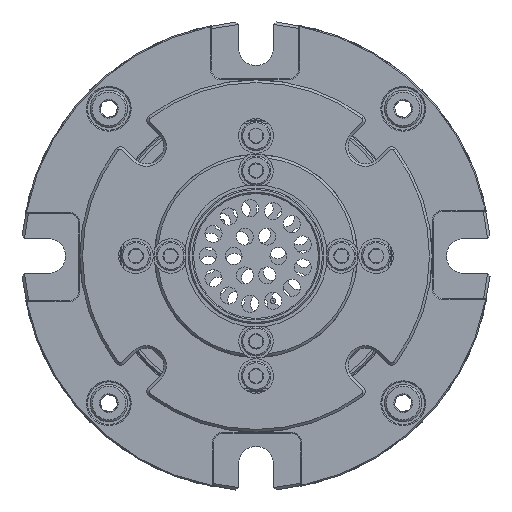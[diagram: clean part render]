
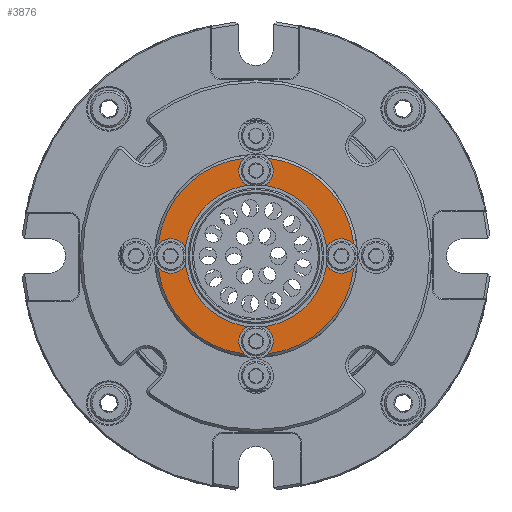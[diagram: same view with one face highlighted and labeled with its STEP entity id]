
A CAD part, left-side view. The second image highlights one B-rep face of the part: STEP entity #3876.
In plain terms, the highlighted planar face has unit normal (-1, 0, 0).
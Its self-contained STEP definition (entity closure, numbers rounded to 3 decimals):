
#51 = AXIS2_PLACEMENT_3D ( 'NONE', #11730, #18459, #3414 ) ;
#566 = VERTEX_POINT ( 'NONE', #10225 ) ;
#799 = DIRECTION ( 'NONE',  ( 0., 0., 1. ) ) ;
#951 = EDGE_CURVE ( 'NONE', #14680, #566, #7232, .T. ) ;
#1256 = CARTESIAN_POINT ( 'NONE',  ( -121.309, -49.282, -65.877 ) ) ;
#1408 = CIRCLE ( 'NONE', #13652, 3.25 ) ;
#1698 = DIRECTION ( 'NONE',  ( 0., 0., 1. ) ) ;
#2169 = VERTEX_POINT ( 'NONE', #18805 ) ;
#2205 = CARTESIAN_POINT ( 'NONE',  ( -121.309, -30.282, -65.877 ) ) ;
#2764 = ORIENTED_EDGE ( 'NONE', *, *, #11901, .T. ) ;
#3399 = CARTESIAN_POINT ( 'NONE',  ( -121.309, -65.282, -65.877 ) ) ;
#3414 = DIRECTION ( 'NONE',  ( 0., 0., -1. ) ) ;
#3456 = CIRCLE ( 'NONE', #18550, 18.5 ) ;
#3876 = ADVANCED_FACE ( 'NONE', ( #7230, #12161 ), #5698, .F. ) ;
#3892 = CIRCLE ( 'NONE', #51, 18.5 ) ;
#3997 = CARTESIAN_POINT ( 'NONE',  ( -121.309, -49.282, -65.877 ) ) ;
#4154 = DIRECTION ( 'NONE',  ( 1., 0., 0. ) ) ;
#4799 = EDGE_CURVE ( 'NONE', #2169, #566, #3892, .T. ) ;
#5163 = CARTESIAN_POINT ( 'NONE',  ( -121.309, -51.511, -84.243 ) ) ;
#5339 = VERTEX_POINT ( 'NONE', #19486 ) ;
#5461 = EDGE_CURVE ( 'NONE', #11824, #5339, #5946, .T. ) ;
#5475 = EDGE_CURVE ( 'NONE', #2169, #5339, #1408, .T. ) ;
#5698 = PLANE ( 'NONE',  #21372 ) ;
#5740 = CARTESIAN_POINT ( 'NONE',  ( -121.309, -47.053, -84.243 ) ) ;
#5935 = CARTESIAN_POINT ( 'NONE',  ( -121.309, -33.282, -65.877 ) ) ;
#5946 = CIRCLE ( 'NONE', #20732, 18.5 ) ;
#6137 = ORIENTED_EDGE ( 'NONE', *, *, #4799, .T. ) ;
#6279 = DIRECTION ( 'NONE',  ( -1., 0., 0. ) ) ;
#7230 = FACE_BOUND ( 'NONE', #15505, .T. ) ;
#7232 = CIRCLE ( 'NONE', #12476, 3.25 ) ;
#7493 = DIRECTION ( 'NONE',  ( 1., 0., 0. ) ) ;
#7938 = DIRECTION ( 'NONE',  ( 0., 0., -1. ) ) ;
#8141 = VERTEX_POINT ( 'NONE', #5163 ) ;
#8154 = CARTESIAN_POINT ( 'NONE',  ( -121.309, -49.282, -65.877 ) ) ;
#9075 = EDGE_CURVE ( 'NONE', #8141, #16306, #19052, .T. ) ;
#9356 = CARTESIAN_POINT ( 'NONE',  ( -121.309, -67.647, -63.648 ) ) ;
#9438 = ORIENTED_EDGE ( 'NONE', *, *, #5475, .F. ) ;
#9654 = DIRECTION ( 'NONE',  ( 0., 0., 1. ) ) ;
#9710 = CARTESIAN_POINT ( 'NONE',  ( -121.309, -49.282, -81.877 ) ) ;
#9798 = CARTESIAN_POINT ( 'NONE',  ( -121.309, -49.282, -78.577 ) ) ;
#9972 = AXIS2_PLACEMENT_3D ( 'NONE', #3399, #10093, #9654 ) ;
#10093 = DIRECTION ( 'NONE',  ( -1., 0., 0. ) ) ;
#10109 = EDGE_CURVE ( 'NONE', #11824, #16306, #13095, .T. ) ;
#10121 = DIRECTION ( 'NONE',  ( 0., 0., -1. ) ) ;
#10225 = CARTESIAN_POINT ( 'NONE',  ( -121.309, -30.917, -63.648 ) ) ;
#10734 = DIRECTION ( 'NONE',  ( 0., 0., -1. ) ) ;
#11200 = AXIS2_PLACEMENT_3D ( 'NONE', #3997, #7493, #19258 ) ;
#11513 = AXIS2_PLACEMENT_3D ( 'NONE', #9710, #14776, #14877 ) ;
#11730 = CARTESIAN_POINT ( 'NONE',  ( -121.309, -49.282, -65.877 ) ) ;
#11824 = VERTEX_POINT ( 'NONE', #9356 ) ;
#11901 = EDGE_CURVE ( 'NONE', #12969, #12969, #16847, .T. ) ;
#12161 = FACE_OUTER_BOUND ( 'NONE', #13989, .T. ) ;
#12476 = AXIS2_PLACEMENT_3D ( 'NONE', #5935, #12611, #799 ) ;
#12562 = ORIENTED_EDGE ( 'NONE', *, *, #5461, .T. ) ;
#12611 = DIRECTION ( 'NONE',  ( -1., 0., 0. ) ) ;
#12707 = AXIS2_PLACEMENT_3D ( 'NONE', #17710, #20996, #14405 ) ;
#12969 = VERTEX_POINT ( 'NONE', #9798 ) ;
#13095 = CIRCLE ( 'NONE', #9972, 3.25 ) ;
#13652 = AXIS2_PLACEMENT_3D ( 'NONE', #19930, #16736, #1698 ) ;
#13989 = EDGE_LOOP ( 'NONE', ( #12562, #9438, #6137, #18998, #19388, #17600, #17318, #21302 ) ) ;
#14405 = DIRECTION ( 'NONE',  ( 0., 0., -1. ) ) ;
#14676 = CIRCLE ( 'NONE', #11513, 3.25 ) ;
#14680 = VERTEX_POINT ( 'NONE', #15470 ) ;
#14776 = DIRECTION ( 'NONE',  ( -1., 0., 0. ) ) ;
#14877 = DIRECTION ( 'NONE',  ( 0., 0., 1. ) ) ;
#15470 = CARTESIAN_POINT ( 'NONE',  ( -121.309, -30.917, -68.106 ) ) ;
#15505 = EDGE_LOOP ( 'NONE', ( #2764 ) ) ;
#16306 = VERTEX_POINT ( 'NONE', #16874 ) ;
#16411 = DIRECTION ( 'NONE',  ( -1., 0., 0. ) ) ;
#16736 = DIRECTION ( 'NONE',  ( -1., 0., 0. ) ) ;
#16847 = CIRCLE ( 'NONE', #11200, 12.7 ) ;
#16874 = CARTESIAN_POINT ( 'NONE',  ( -121.309, -67.647, -68.106 ) ) ;
#17318 = ORIENTED_EDGE ( 'NONE', *, *, #9075, .T. ) ;
#17600 = ORIENTED_EDGE ( 'NONE', *, *, #19232, .F. ) ;
#17710 = CARTESIAN_POINT ( 'NONE',  ( -121.309, -49.282, -65.877 ) ) ;
#18459 = DIRECTION ( 'NONE',  ( -1., 0., 0. ) ) ;
#18550 = AXIS2_PLACEMENT_3D ( 'NONE', #8154, #6279, #10121 ) ;
#18805 = CARTESIAN_POINT ( 'NONE',  ( -121.309, -47.053, -47.512 ) ) ;
#18998 = ORIENTED_EDGE ( 'NONE', *, *, #951, .F. ) ;
#19052 = CIRCLE ( 'NONE', #12707, 18.5 ) ;
#19232 = EDGE_CURVE ( 'NONE', #8141, #20620, #14676, .T. ) ;
#19258 = DIRECTION ( 'NONE',  ( 0., 0., -1. ) ) ;
#19388 = ORIENTED_EDGE ( 'NONE', *, *, #19557, .T. ) ;
#19486 = CARTESIAN_POINT ( 'NONE',  ( -121.309, -51.511, -47.512 ) ) ;
#19557 = EDGE_CURVE ( 'NONE', #14680, #20620, #3456, .T. ) ;
#19930 = CARTESIAN_POINT ( 'NONE',  ( -121.309, -49.282, -49.877 ) ) ;
#20620 = VERTEX_POINT ( 'NONE', #5740 ) ;
#20732 = AXIS2_PLACEMENT_3D ( 'NONE', #1256, #16411, #7938 ) ;
#20996 = DIRECTION ( 'NONE',  ( -1., 0., 0. ) ) ;
#21302 = ORIENTED_EDGE ( 'NONE', *, *, #10109, .F. ) ;
#21372 = AXIS2_PLACEMENT_3D ( 'NONE', #2205, #4154, #10734 ) ;
